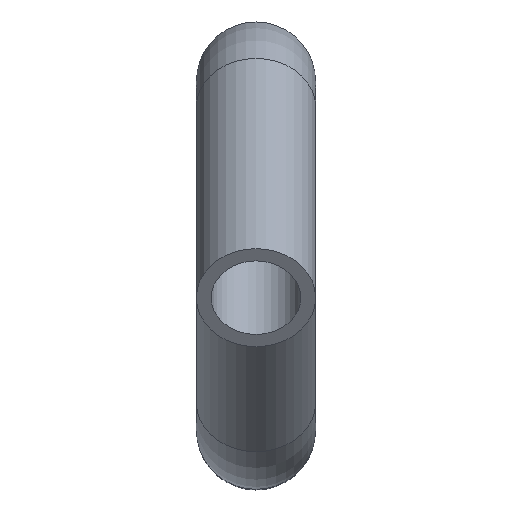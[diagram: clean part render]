
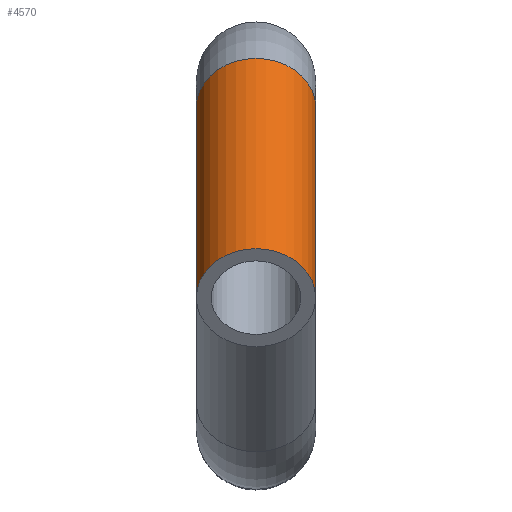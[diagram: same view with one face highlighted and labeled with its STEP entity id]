
A CAD part, top view. The second image highlights one B-rep face of the part: STEP entity #4570.
In plain terms, the highlighted cylindrical face has radius 6 mm (diameter 12 mm), a partial arc.
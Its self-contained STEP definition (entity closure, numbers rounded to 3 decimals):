
#2570=CARTESIAN_POINT('',(-8.127,83.461,107.568));
#2580=VERTEX_POINT('',#2570);
#2730=CARTESIAN_POINT('',(-20.127,83.461,107.568));
#2740=VERTEX_POINT('',#2730);
#2770=CARTESIAN_POINT('',(-14.127,83.461,107.568));
#2780=DIRECTION('',(0.,-0.571,0.821));
#2790=DIRECTION('',(1.,0.,0.));
#2800=AXIS2_PLACEMENT_3D('',#2770,#2780,#2790);
#2810=CIRCLE('',#2800,6.);
#3210=CARTESIAN_POINT('',(-14.127,83.461,107.568));
#3220=DIRECTION('',(0.,-0.571,0.821));
#3230=DIRECTION('',(1.,0.,0.));
#3240=AXIS2_PLACEMENT_3D('',#3210,#3220,#3230);
#3250=CYLINDRICAL_SURFACE('',#3240,6.);
#3260=CARTESIAN_POINT('',(-8.127,83.461,107.568));
#3270=DIRECTION('',(0.,-0.571,0.821));
#3280=VECTOR('',#3270,1.);
#3290=LINE('',#3260,#3280);
#3300=CARTESIAN_POINT('',(-8.127,64.268,135.147));
#3310=VERTEX_POINT('',#3300);
#3320=EDGE_CURVE('',#2580,#3310,#3290,.T.);
#3350=CARTESIAN_POINT('',(-20.127,83.461,107.568));
#3360=DIRECTION('',(0.,-0.571,0.821));
#3370=VECTOR('',#3360,1.);
#3380=LINE('',#3350,#3370);
#3390=CARTESIAN_POINT('',(-20.127,64.268,135.147))
;
#3400=VERTEX_POINT('',#3390);
#3410=EDGE_CURVE('',#2740,#3400,#3380,.T.);
#3430=CARTESIAN_POINT('',(-14.127,64.268,135.147))
;
#3440=DIRECTION('',(0.,-0.571,0.821));
#3450=DIRECTION('',(1.,0.,0.));
#3460=AXIS2_PLACEMENT_3D('',#3430,#3440,#3450);
#3470=CIRCLE('',#3460,6.);
#3580=EDGE_CURVE('',#3310,#3400,#3470,.T.);
#4440=EDGE_CURVE('',#2580,#2740,#2810,.T.);
#4510=ORIENTED_EDGE('',*,*,#4440,.T.);
#4520=ORIENTED_EDGE('',*,*,#3320,.F.);
#4530=ORIENTED_EDGE('',*,*,#3580,.F.);
#4540=ORIENTED_EDGE('',*,*,#3410,.T.);
#4550=EDGE_LOOP('',(#4540,#4530,#4520,#4510));
#4560=FACE_OUTER_BOUND('',#4550,.T.);
#4570=ADVANCED_FACE('',(#4560),#3250,.T.);
